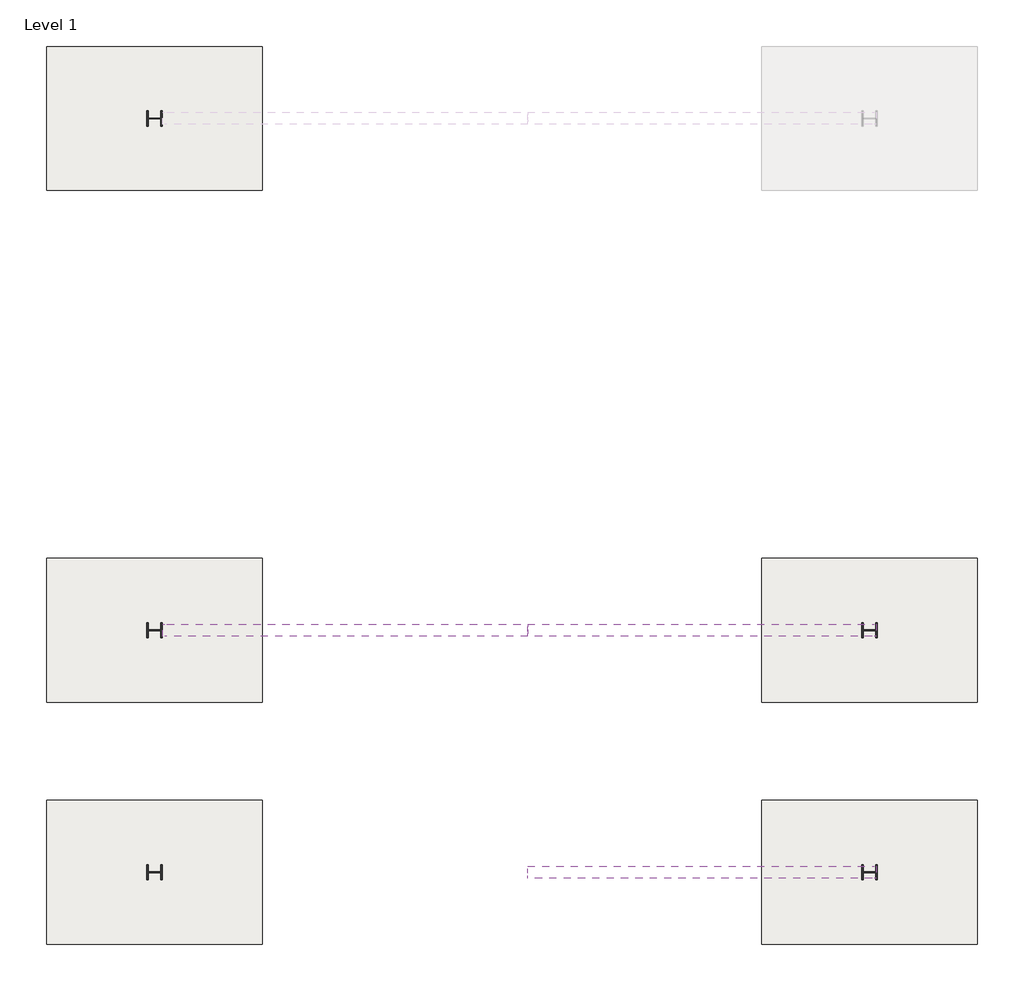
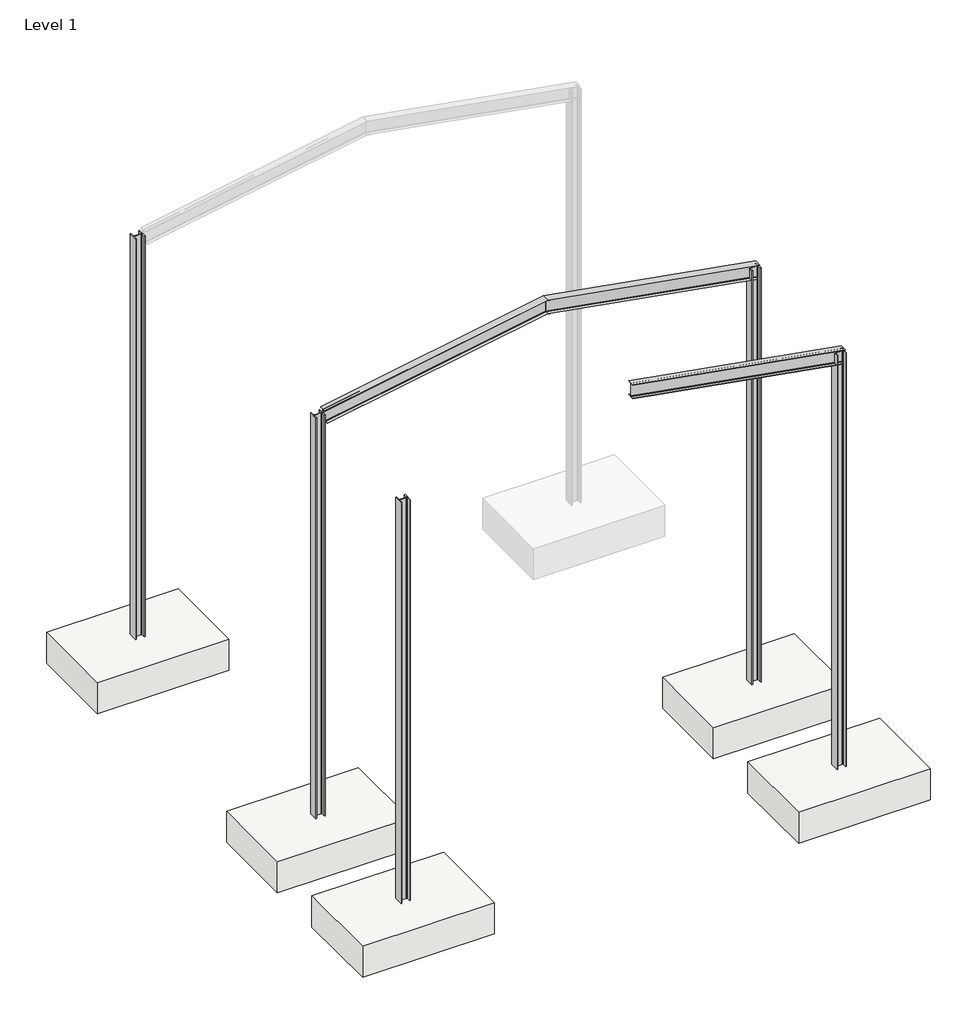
# One storey, part 1 of 3: 5 columns, 5 slabs, 3 beams.
"""IFC4 building model written with IfcOpenShell, lengths in millimetres."""

from ifc_helpers import new_model, si_unit, point, frame, frame_2d, origin, place, context, project, spatial, polyline, circle_curve, ellipse_curve, trimmed, segment, composite_curve, outline, extrude, transform, mapped, element, save
from ifc_brep_helpers import plane_surface, revolved_surface, advanced_brep
from components import slab_5ba74754

model = new_model("IFC4")

# Units and contexts
model_context = context("Model", 3, world=origin())
ifc_project = project(units=[si_unit("LENGTHUNIT", "METRE", prefix="MILLI")], contexts=[model_context])

# Site, building, storey
site = spatial("IfcSite", under=ifc_project)
building = spatial("IfcBuilding", under=site)
storey = spatial("IfcBuildingStorey", under=building, Name="Level 1", Elevation=0.0)

# Beams
placement = place(None, origin())
element("IfcBeam", 1, ObjectType="W Shapes : W8X10", at=placement, inside=storey, context=model_context, shape_type="AdvancedBrep", body=[
    advanced_brep(
    [(-3052.4401664, 3664.5204583, 6330.8839899), (-3052.4401664, 3764.5964583, 6330.8839899), (-6145.2600056, 3764.5964583, 5785.5364057), (-6145.2600056, 3664.5204583, 5785.5364057), (-6111.3640549, 3764.5964583, 5593.3029172), (-6110.4598689, 3764.5964583, 5588.1750232), (-6110.4598689, 3664.5204583, 5588.1750232), (-6111.3640549, 3664.5204583, 5593.3029172), (-6111.3640549, 3704.7794583, 5593.3029172), (-6112.687254, 3712.3994583, 5600.8071522), (-6143.0326204, 3712.3994583, 5772.9042767), (-6144.3558195, 3704.7794583, 5780.4085118), (-6144.3558195, 3664.5204583, 5780.4085118), (-6144.3558195, 3764.5964583, 5780.4085118), (-6144.3558195, 3724.3374583, 5780.4085118), (-6143.0326204, 3716.7174583, 5772.9042767), (-6112.687254, 3716.7174583, 5600.8071522), (-6111.3640549, 3724.3374583, 5593.3029172), (-3052.4401664, 3724.3374583, 6132.6737306), (-3052.4401664, 3764.5964583, 6132.6737306), (-3052.4401664, 3716.7174583, 6140.4112814), (-3052.4401664, 3716.7174583, 6317.8591127), (-3052.4401664, 3724.3374583, 6325.5966635), (-3052.4401664, 3764.5964583, 6325.5966635), (-3052.4401664, 3664.5204583, 6325.5966635), (-3052.4401664, 3704.7794583, 6325.5966635), (-3052.4401664, 3712.3994583, 6317.8591127), (-3052.4401664, 3712.3994583, 6140.4112814), (-3052.4401664, 3704.7794583, 6132.6737306), (-3052.4401664, 3664.5204583, 6132.6737306), (-3052.4401664, 3664.5204583, 6127.3864043), (-3052.4401664, 3764.5964583, 6127.3864043)],
    [
        (0, 1),
        (1, 2),
        (2, 3),
        (3, 0),
        (4, 5),
        (5, 6),
        (6, 7),
        (7, 8),
        (8, 9, circle_curve(frame((-6112.687254, 3704.7794583, 5600.8071522), z_axis=(0.9848077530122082, 0.0, 0.17364817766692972), x_axis=(0.0, -1.0000000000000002, 0.0)), 7.62)),
        (9, 10),
        (10, 11, circle_curve(frame((-6143.0326204, 3704.7794583, 5772.9042767), z_axis=(0.9848077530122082, 0.0, 0.17364817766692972), x_axis=(0.0, -1.0000000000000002, 0.0)), 7.62)),
        (11, 12),
        (12, 3),
        (2, 13),
        (13, 14),
        (14, 15, circle_curve(frame((-6143.0326204, 3724.3374583, 5772.9042767), z_axis=(0.9848077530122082, 0.0, 0.17364817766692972), x_axis=(0.0, -1.0000000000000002, 0.0)), 7.62)),
        (15, 16),
        (16, 17, circle_curve(frame((-6112.687254, 3724.3374583, 5600.8071522), z_axis=(0.9848077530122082, 0.0, 0.17364817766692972), x_axis=(0.0, -1.0000000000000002, 0.0)), 7.62)),
        (17, 4),
        (18, 19),
        (19, 4),
        (17, 18),
        (20, 18, ellipse_curve(frame((-3052.4401664, 3724.3374583, 6140.4112814), z_axis=(1.0, 0.0, 0.0), x_axis=(0.0, 0.0, -1.0)), 7.7375508, 7.62)),
        (16, 20),
        (21, 20),
        (15, 21),
        (22, 21, ellipse_curve(frame((-3052.4401664, 3724.3374583, 6317.8591127), z_axis=(1.0, 0.0, 0.0), x_axis=(0.0, 0.0, -1.0)), 7.7375508, 7.62)),
        (14, 22),
        (23, 22),
        (13, 23),
        (1, 23),
        (24, 0),
        (12, 24),
        (25, 24),
        (11, 25),
        (26, 25, ellipse_curve(frame((-3052.4401664, 3704.7794583, 6317.8591127), z_axis=(1.0, 0.0, 0.0), x_axis=(0.0, 0.0, -1.0)), 7.7375508, 7.62)),
        (10, 26),
        (27, 26),
        (9, 27),
        (28, 27, ellipse_curve(frame((-3052.4401664, 3704.7794583, 6140.4112814), z_axis=(1.0, 0.0, 0.0), x_axis=(0.0, 0.0, -1.0)), 7.7375508, 7.62)),
        (8, 28),
        (29, 28),
        (7, 29),
        (30, 29),
        (6, 30),
        (31, 30),
        (5, 31),
        (19, 31),
    ],
    [
        plane_surface(frame((-3052.4401664, 3764.5964583, 6330.8839899), z_axis=(-0.17364817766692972, 0.0, 0.9848077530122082), x_axis=(-0.9848077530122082, 0.0, -0.17364817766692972))),
        plane_surface(frame((-6127.8599372, 3714.5584583, 5686.8557145), z_axis=(-0.9848077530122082, 0.0, -0.17364817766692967), x_axis=(-0.17364817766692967, 0.0, 0.9848077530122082))),
        plane_surface(frame((-3018.5442158, 3764.5964583, 6138.6505013), z_axis=(-0.17364817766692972, 0.0, 0.9848077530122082), x_axis=(-0.9848077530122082, 0.0, -0.17364817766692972))),
        revolved_surface(polyline([(-6112.687254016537, 3716.7174583, 5600.807152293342), (-3051.1169672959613, 3716.7174583, 6140.644597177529)]), (-3019.8674149, 3724.3374583, 6146.1547364), (-0.9848077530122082, 0.0, -0.17364817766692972)),
        plane_surface(frame((-3019.8674149, 3716.7174583, 6146.1547364), z_axis=(0.0, 1.0000000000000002, 0.0), x_axis=(-0.9848077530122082, 0.0, -0.17364817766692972))),
        revolved_surface(polyline([(-6143.032620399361, 3716.7174583, 5772.904276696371), (-3051.116967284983, 3716.7174583, 6318.092428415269)]), (-3050.2127813, 3724.3374583, 6318.2518608), (-0.9848077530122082, 0.0, -0.17364817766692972)),
        plane_surface(frame((-3051.5359804, 3724.3374583, 6325.7560959), z_axis=(0.17364817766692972, 0.0, -0.9848077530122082), x_axis=(-0.9848077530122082, 0.0, -0.17364817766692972))),
        plane_surface(frame((-3051.5359804, 3764.5964583, 6325.7560959), z_axis=(0.0, 1.0000000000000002, 0.0), x_axis=(-0.9848077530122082, 0.0, -0.17364817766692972))),
        plane_surface(frame((-3052.4401664, 3664.5204583, 6330.8839899), z_axis=(0.0, -1.0000000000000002, 0.0), x_axis=(-0.9848077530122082, 0.0, -0.17364817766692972))),
        plane_surface(frame((-3051.5359804, 3664.5204583, 6325.7560959), z_axis=(0.17364817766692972, 0.0, -0.9848077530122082), x_axis=(-0.9848077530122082, 0.0, -0.17364817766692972))),
        revolved_surface(polyline([(-6143.032620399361, 3697.1594583, 5772.904276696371), (-3051.116967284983, 3697.1594583, 6318.092428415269)]), (-3050.2127813, 3704.7794583, 6318.2518608), (-0.9848077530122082, 0.0, -0.17364817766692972)),
        plane_surface(frame((-3050.2127813, 3712.3994583, 6318.2518608), z_axis=(0.0, -1.0000000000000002, 0.0), x_axis=(-0.9848077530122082, 0.0, -0.17364817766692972))),
        revolved_surface(polyline([(-6112.687254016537, 3697.1594583, 5600.807152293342), (-3051.1169672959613, 3697.1594583, 6140.644597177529)]), (-3019.8674149, 3704.7794583, 6146.1547364), (-0.9848077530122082, 0.0, -0.17364817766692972)),
        plane_surface(frame((-3018.5442158, 3704.7794583, 6138.6505013), z_axis=(-0.17364817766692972, 0.0, 0.9848077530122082), x_axis=(-0.9848077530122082, 0.0, -0.17364817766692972))),
        plane_surface(frame((-3018.5442158, 3664.5204583, 6138.6505013), z_axis=(0.0, -1.0000000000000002, 0.0), x_axis=(-0.9848077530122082, 0.0, -0.17364817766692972))),
        plane_surface(frame((-3017.6400297, 3664.5204583, 6133.5226073), z_axis=(0.17364817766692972, 0.0, -0.9848077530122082), x_axis=(-0.9848077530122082, 0.0, -0.17364817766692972))),
        plane_surface(frame((-3017.6400297, 3764.5964583, 6133.5226073), z_axis=(0.0, 1.0000000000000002, 0.0), x_axis=(-0.9848077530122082, 0.0, -0.17364817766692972))),
        plane_surface(frame((-3052.4401664, 3714.5584583, 6330.8839899), z_axis=(1.0, 0.0, 0.0), x_axis=(0.0, -1.0, 0.0))),
    ],
    [
        (0, [[1, 2, 3, 4]]),
        (1, [[5, 6, 7, 8, 9, 10, 11, 12, 13, -3, 14, 15, 16, 17, 18, 19]]),
        (2, [[20, 21, -19, 22]]),
        (3, [[23, -22, -18, 24]]),
        (4, [[25, -24, -17, 26]]),
        (5, [[27, -26, -16, 28]]),
        (6, [[29, -28, -15, 30]]),
        (7, [[31, -30, -14, -2]]),
        (8, [[32, -4, -13, 33]]),
        (9, [[34, -33, -12, 35]]),
        (10, [[36, -35, -11, 37]]),
        (11, [[38, -37, -10, 39]]),
        (12, [[40, -39, -9, 41]]),
        (13, [[42, -41, -8, 43]]),
        (14, [[44, -43, -7, 45]]),
        (15, [[46, -45, -6, 47]]),
        (16, [[48, -47, -5, -21]]),
        (17, [[-20, -23, -25, -27, -29, -31, -1, -32, -34, -36, -38, -40, -42, -44, -46, -48]]),
    ],
),
])
element("IfcBeam", 2, ObjectType="W Shapes : W8X10", at=placement, inside=storey, context=model_context, shape_type="AdvancedBrep", body=[
    advanced_brep(
    [(-100.7743691, 3664.5204583, 5810.4256718), (-100.7743691, 3764.5964583, 5810.4256718), (-3052.4401664, 3764.5964583, 6330.8839899), (-3052.4401664, 3664.5204583, 6330.8839899), (-134.6703197, 3764.5964583, 5618.1921832), (-134.6703197, 3724.3374583, 5618.1921832), (-133.3471206, 3716.7174583, 5625.6964182), (-103.0017543, 3716.7174583, 5797.7935427), (-101.6785552, 3724.3374583, 5805.2977778), (-101.6785552, 3764.5964583, 5805.2977778), (-101.6785552, 3664.5204583, 5805.2977778), (-101.6785552, 3704.7794583, 5805.2977778), (-103.0017543, 3712.3994583, 5797.7935427), (-133.3471206, 3712.3994583, 5625.6964182), (-134.6703197, 3704.7794583, 5618.1921832), (-134.6703197, 3664.5204583, 5618.1921832), (-135.5745058, 3664.5204583, 5613.0642892), (-135.5745058, 3764.5964583, 5613.0642892), (-3052.4401664, 3764.5964583, 6132.6737306), (-3052.4401664, 3724.3374583, 6132.6737306), (-3052.4401664, 3716.7174583, 6140.4112814), (-3052.4401664, 3716.7174583, 6317.8591127), (-3052.4401664, 3724.3374583, 6325.5966635), (-3052.4401664, 3764.5964583, 6325.5966635), (-3052.4401664, 3664.5204583, 6325.5966635), (-3052.4401664, 3704.7794583, 6325.5966635), (-3052.4401664, 3712.3994583, 6317.8591127), (-3052.4401664, 3712.3994583, 6140.4112814), (-3052.4401664, 3704.7794583, 6132.6737306), (-3052.4401664, 3664.5204583, 6132.6737306), (-3052.4401664, 3664.5204583, 6127.3864043), (-3052.4401664, 3764.5964583, 6127.3864043)],
    [
        (0, 1),
        (1, 2),
        (2, 3),
        (3, 0),
        (4, 5),
        (5, 6, circle_curve(frame((-133.3471206, 3724.3374583, 5625.6964182), z_axis=(-0.9848077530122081, 0.0, 0.17364817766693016), x_axis=(0.0, -1.0, 0.0)), 7.62)),
        (6, 7),
        (7, 8, circle_curve(frame((-103.0017543, 3724.3374583, 5797.7935427), z_axis=(-0.9848077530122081, 0.0, 0.17364817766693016), x_axis=(0.0, -1.0, 0.0)), 7.62)),
        (8, 9),
        (9, 1),
        (0, 10),
        (10, 11),
        (11, 12, circle_curve(frame((-103.0017543, 3704.7794583, 5797.7935427), z_axis=(-0.9848077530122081, 0.0, 0.17364817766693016), x_axis=(0.0, -1.0, 0.0)), 7.62)),
        (12, 13),
        (13, 14, circle_curve(frame((-133.3471206, 3704.7794583, 5625.6964182), z_axis=(-0.9848077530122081, 0.0, 0.17364817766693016), x_axis=(0.0, -1.0, 0.0)), 7.62)),
        (14, 15),
        (15, 16),
        (16, 17),
        (17, 4),
        (4, 18),
        (18, 19),
        (19, 5),
        (19, 20, ellipse_curve(frame((-3052.4401664, 3724.3374583, 6140.4112814), z_axis=(-1.0, 0.0, 0.0), x_axis=(0.0, 0.0, 1.0)), 7.7375508, 7.62)),
        (20, 6),
        (20, 21),
        (21, 7),
        (21, 22, ellipse_curve(frame((-3052.4401664, 3724.3374583, 6317.8591127), z_axis=(-1.0, 0.0, 0.0), x_axis=(0.0, 0.0, 1.0)), 7.7375508, 7.62)),
        (22, 8),
        (22, 23),
        (23, 9),
        (23, 2),
        (3, 24),
        (24, 10),
        (24, 25),
        (25, 11),
        (25, 26, ellipse_curve(frame((-3052.4401664, 3704.7794583, 6317.8591127), z_axis=(-1.0, 0.0, 0.0), x_axis=(0.0, 0.0, 1.0)), 7.7375508, 7.62)),
        (26, 12),
        (26, 27),
        (27, 13),
        (27, 28, ellipse_curve(frame((-3052.4401664, 3704.7794583, 6140.4112814), z_axis=(-1.0, 0.0, 0.0), x_axis=(0.0, 0.0, 1.0)), 7.7375508, 7.62)),
        (28, 14),
        (28, 29),
        (29, 15),
        (29, 30),
        (30, 16),
        (30, 31),
        (31, 17),
        (31, 18),
    ],
    [
        plane_surface(frame((-100.7743691, 3764.5964583, 5810.4256718), z_axis=(0.17364817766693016, 0.0, 0.9848077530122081), x_axis=(-0.9848077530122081, 0.0, 0.17364817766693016))),
        plane_surface(frame((-118.1744374, 3714.5584583, 5711.7449805), z_axis=(0.9848077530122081, 0.0, -0.1736481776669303), x_axis=(0.1736481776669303, 0.0, 0.9848077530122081))),
        plane_surface(frame((-134.6703197, 3764.5964583, 5618.1921832), z_axis=(0.17364817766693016, 0.0, 0.9848077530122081), x_axis=(-0.9848077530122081, 0.0, 0.17364817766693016))),
        revolved_surface(polyline([(-3053.763365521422, 3716.7174583, 6140.644597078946), (-133.34712059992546, 3716.7174583, 5625.696418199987)]), (-133.3471206, 3724.3374583, 5625.6964182), (-0.9848077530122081, 0.0, 0.17364817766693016)),
        plane_surface(frame((-133.3471206, 3716.7174583, 5625.6964182), z_axis=(0.0, 1.0, 0.0), x_axis=(-0.9848077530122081, 0.0, 0.17364817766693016))),
        revolved_surface(polyline([(-3053.763365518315, 3716.7174583, 6318.0924283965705), (-103.0017543, 3716.7174583, 5797.7935427)]), (-103.0017543, 3724.3374583, 5797.7935427), (-0.9848077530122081, 0.0, 0.17364817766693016)),
        plane_surface(frame((-101.6785552, 3724.3374583, 5805.2977778), z_axis=(-0.17364817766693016, 0.0, -0.9848077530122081), x_axis=(-0.9848077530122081, 0.0, 0.17364817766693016))),
        plane_surface(frame((-101.6785552, 3764.5964583, 5805.2977778), z_axis=(0.0, 1.0, 0.0), x_axis=(-0.9848077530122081, 0.0, 0.17364817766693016))),
        plane_surface(frame((-100.7743691, 3664.5204583, 5810.4256718), z_axis=(0.0, -1.0, 0.0), x_axis=(-0.9848077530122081, 0.0, 0.17364817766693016))),
        plane_surface(frame((-101.6785552, 3664.5204583, 5805.2977778), z_axis=(-0.17364817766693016, 0.0, -0.9848077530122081), x_axis=(-0.9848077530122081, 0.0, 0.17364817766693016))),
        revolved_surface(polyline([(-3053.763365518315, 3697.1594583, 6318.0924283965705), (-103.0017543, 3697.1594583, 5797.7935427)]), (-103.0017543, 3704.7794583, 5797.7935427), (-0.9848077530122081, 0.0, 0.17364817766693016)),
        plane_surface(frame((-103.0017543, 3712.3994583, 5797.7935427), z_axis=(0.0, -1.0, 0.0), x_axis=(-0.9848077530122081, 0.0, 0.17364817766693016))),
        revolved_surface(polyline([(-3053.763365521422, 3697.1594583, 6140.644597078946), (-133.34712059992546, 3697.1594583, 5625.696418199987)]), (-133.3471206, 3704.7794583, 5625.6964182), (-0.9848077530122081, 0.0, 0.17364817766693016)),
        plane_surface(frame((-134.6703197, 3704.7794583, 5618.1921832), z_axis=(0.17364817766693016, 0.0, 0.9848077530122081), x_axis=(-0.9848077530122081, 0.0, 0.17364817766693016))),
        plane_surface(frame((-134.6703197, 3664.5204583, 5618.1921832), z_axis=(0.0, -1.0, 0.0), x_axis=(-0.9848077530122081, 0.0, 0.17364817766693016))),
        plane_surface(frame((-135.5745058, 3664.5204583, 5613.0642892), z_axis=(-0.17364817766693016, 0.0, -0.9848077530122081), x_axis=(-0.9848077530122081, 0.0, 0.17364817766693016))),
        plane_surface(frame((-135.5745058, 3764.5964583, 5613.0642892), z_axis=(0.0, 1.0, 0.0), x_axis=(-0.9848077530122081, 0.0, 0.17364817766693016))),
        plane_surface(frame((-3052.4401664, 3714.5584583, 6330.8839899), z_axis=(-1.0, 0.0, 0.0), x_axis=(0.0, 1.0, 0.0))),
    ],
    [
        (0, [[1, 2, 3, 4]]),
        (1, [[5, 6, 7, 8, 9, 10, -1, 11, 12, 13, 14, 15, 16, 17, 18, 19]]),
        (2, [[-5, 20, 21, 22]]),
        (3, [[-6, -22, 23, 24]]),
        (4, [[-7, -24, 25, 26]]),
        (5, [[-8, -26, 27, 28]]),
        (6, [[-9, -28, 29, 30]]),
        (7, [[-10, -30, 31, -2]]),
        (8, [[-11, -4, 32, 33]]),
        (9, [[-12, -33, 34, 35]]),
        (10, [[-13, -35, 36, 37]]),
        (11, [[-14, -37, 38, 39]]),
        (12, [[-15, -39, 40, 41]]),
        (13, [[-16, -41, 42, 43]]),
        (14, [[-17, -43, 44, 45]]),
        (15, [[-18, -45, 46, 47]]),
        (16, [[-19, -47, 48, -20]]),
        (17, [[-48, -46, -44, -42, -40, -38, -36, -34, -32, -3, -31, -29, -27, -25, -23, -21]]),
    ],
),
])
element("IfcBeam", 3, ObjectType="W Shapes : W8X10", at=placement, inside=storey, context=model_context, shape_type="AdvancedBrep", body=[
    advanced_brep(
    [(-100.7743691, 1613.4704583, 5810.4256718), (-100.7743691, 1713.5464583, 5810.4256718), (-3052.4401664, 1713.5464583, 6330.8839899), (-3052.4401664, 1613.4704583, 6330.8839899), (-134.6703197, 1713.5464583, 5618.1921832), (-134.6703197, 1673.2874583, 5618.1921832), (-133.3471206, 1665.6674583, 5625.6964182), (-103.0017543, 1665.6674583, 5797.7935427), (-101.6785552, 1673.2874583, 5805.2977778), (-101.6785552, 1713.5464583, 5805.2977778), (-101.6785552, 1613.4704583, 5805.2977778), (-101.6785552, 1653.7294583, 5805.2977778), (-103.0017543, 1661.3494583, 5797.7935427), (-133.3471206, 1661.3494583, 5625.6964182), (-134.6703197, 1653.7294583, 5618.1921832), (-134.6703197, 1613.4704583, 5618.1921832), (-135.5745058, 1613.4704583, 5613.0642892), (-135.5745058, 1713.5464583, 5613.0642892), (-3052.4401664, 1713.5464583, 6132.6737306), (-3052.4401664, 1673.2874583, 6132.6737306), (-3052.4401664, 1665.6674583, 6140.4112814), (-3052.4401664, 1665.6674583, 6317.8591127), (-3052.4401664, 1673.2874583, 6325.5966635), (-3052.4401664, 1713.5464583, 6325.5966635), (-3052.4401664, 1613.4704583, 6325.5966635), (-3052.4401664, 1653.7294583, 6325.5966635), (-3052.4401664, 1661.3494583, 6317.8591127), (-3052.4401664, 1661.3494583, 6140.4112814), (-3052.4401664, 1653.7294583, 6132.6737306), (-3052.4401664, 1613.4704583, 6132.6737306), (-3052.4401664, 1613.4704583, 6127.3864043), (-3052.4401664, 1713.5464583, 6127.3864043)],
    [
        (0, 1),
        (1, 2),
        (2, 3),
        (3, 0),
        (4, 5),
        (5, 6, circle_curve(frame((-133.3471206, 1673.2874583, 5625.6964182), z_axis=(-0.9848077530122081, 0.0, 0.17364817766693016), x_axis=(0.0, -1.0, 0.0)), 7.62)),
        (6, 7),
        (7, 8, circle_curve(frame((-103.0017543, 1673.2874583, 5797.7935427), z_axis=(-0.9848077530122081, 0.0, 0.17364817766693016), x_axis=(0.0, -1.0, 0.0)), 7.62)),
        (8, 9),
        (9, 1),
        (0, 10),
        (10, 11),
        (11, 12, circle_curve(frame((-103.0017543, 1653.7294583, 5797.7935427), z_axis=(-0.9848077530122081, 0.0, 0.17364817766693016), x_axis=(0.0, -1.0, 0.0)), 7.62)),
        (12, 13),
        (13, 14, circle_curve(frame((-133.3471206, 1653.7294583, 5625.6964182), z_axis=(-0.9848077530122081, 0.0, 0.17364817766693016), x_axis=(0.0, -1.0, 0.0)), 7.62)),
        (14, 15),
        (15, 16),
        (16, 17),
        (17, 4),
        (4, 18),
        (18, 19),
        (19, 5),
        (19, 20, ellipse_curve(frame((-3052.4401664, 1673.2874583, 6140.4112814), z_axis=(-1.0, 0.0, 0.0), x_axis=(0.0, 0.0, 1.0)), 7.7375508, 7.62)),
        (20, 6),
        (20, 21),
        (21, 7),
        (21, 22, ellipse_curve(frame((-3052.4401664, 1673.2874583, 6317.8591127), z_axis=(-1.0, 0.0, 0.0), x_axis=(0.0, 0.0, 1.0)), 7.7375508, 7.62)),
        (22, 8),
        (22, 23),
        (23, 9),
        (23, 2),
        (3, 24),
        (24, 10),
        (24, 25),
        (25, 11),
        (25, 26, ellipse_curve(frame((-3052.4401664, 1653.7294583, 6317.8591127), z_axis=(-1.0, 0.0, 0.0), x_axis=(0.0, 0.0, 1.0)), 7.7375508, 7.62)),
        (26, 12),
        (26, 27),
        (27, 13),
        (27, 28, ellipse_curve(frame((-3052.4401664, 1653.7294583, 6140.4112814), z_axis=(-1.0, 0.0, 0.0), x_axis=(0.0, 0.0, 1.0)), 7.7375508, 7.62)),
        (28, 14),
        (28, 29),
        (29, 15),
        (29, 30),
        (30, 16),
        (30, 31),
        (31, 17),
        (31, 18),
    ],
    [
        plane_surface(frame((-100.7743691, 1713.5464583, 5810.4256718), z_axis=(0.17364817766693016, 0.0, 0.9848077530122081), x_axis=(-0.9848077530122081, 0.0, 0.17364817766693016))),
        plane_surface(frame((-118.1744374, 1663.5084583, 5711.7449805), z_axis=(0.9848077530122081, 0.0, -0.1736481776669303), x_axis=(0.1736481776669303, 0.0, 0.9848077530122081))),
        plane_surface(frame((-134.6703197, 1713.5464583, 5618.1921832), z_axis=(0.17364817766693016, 0.0, 0.9848077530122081), x_axis=(-0.9848077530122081, 0.0, 0.17364817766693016))),
        revolved_surface(polyline([(-3053.763365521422, 1665.6674583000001, 6140.644597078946), (-133.34712059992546, 1665.6674583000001, 5625.696418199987)]), (-133.3471206, 1673.2874583, 5625.6964182), (-0.9848077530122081, 0.0, 0.17364817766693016)),
        plane_surface(frame((-133.3471206, 1665.6674583, 5625.6964182), z_axis=(0.0, 1.0, 0.0), x_axis=(-0.9848077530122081, 0.0, 0.17364817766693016))),
        revolved_surface(polyline([(-3053.763365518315, 1665.6674583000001, 6318.0924283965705), (-103.0017543, 1665.6674583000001, 5797.7935427)]), (-103.0017543, 1673.2874583, 5797.7935427), (-0.9848077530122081, 0.0, 0.17364817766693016)),
        plane_surface(frame((-101.6785552, 1673.2874583, 5805.2977778), z_axis=(-0.17364817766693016, 0.0, -0.9848077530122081), x_axis=(-0.9848077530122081, 0.0, 0.17364817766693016))),
        plane_surface(frame((-101.6785552, 1713.5464583, 5805.2977778), z_axis=(0.0, 1.0, 0.0), x_axis=(-0.9848077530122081, 0.0, 0.17364817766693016))),
        plane_surface(frame((-100.7743691, 1613.4704583, 5810.4256718), z_axis=(0.0, -1.0, 0.0), x_axis=(-0.9848077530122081, 0.0, 0.17364817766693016))),
        plane_surface(frame((-101.6785552, 1613.4704583, 5805.2977778), z_axis=(-0.17364817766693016, 0.0, -0.9848077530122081), x_axis=(-0.9848077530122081, 0.0, 0.17364817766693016))),
        revolved_surface(polyline([(-3053.763365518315, 1646.1094583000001, 6318.0924283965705), (-103.0017543, 1646.1094583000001, 5797.7935427)]), (-103.0017543, 1653.7294583, 5797.7935427), (-0.9848077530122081, 0.0, 0.17364817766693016)),
        plane_surface(frame((-103.0017543, 1661.3494583, 5797.7935427), z_axis=(0.0, -1.0, 0.0), x_axis=(-0.9848077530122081, 0.0, 0.17364817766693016))),
        revolved_surface(polyline([(-3053.763365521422, 1646.1094583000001, 6140.644597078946), (-133.34712059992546, 1646.1094583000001, 5625.696418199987)]), (-133.3471206, 1653.7294583, 5625.6964182), (-0.9848077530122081, 0.0, 0.17364817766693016)),
        plane_surface(frame((-134.6703197, 1653.7294583, 5618.1921832), z_axis=(0.17364817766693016, 0.0, 0.9848077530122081), x_axis=(-0.9848077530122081, 0.0, 0.17364817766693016))),
        plane_surface(frame((-134.6703197, 1613.4704583, 5618.1921832), z_axis=(0.0, -1.0, 0.0), x_axis=(-0.9848077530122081, 0.0, 0.17364817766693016))),
        plane_surface(frame((-135.5745058, 1613.4704583, 5613.0642892), z_axis=(-0.17364817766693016, 0.0, -0.9848077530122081), x_axis=(-0.9848077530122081, 0.0, 0.17364817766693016))),
        plane_surface(frame((-135.5745058, 1713.5464583, 5613.0642892), z_axis=(0.0, 1.0, 0.0), x_axis=(-0.9848077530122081, 0.0, 0.17364817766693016))),
        plane_surface(frame((-3052.4401664, 1663.5084583, 6330.8839899), z_axis=(-1.0, 0.0, 0.0), x_axis=(0.0, 1.0, 0.0))),
    ],
    [
        (0, [[1, 2, 3, 4]]),
        (1, [[5, 6, 7, 8, 9, 10, -1, 11, 12, 13, 14, 15, 16, 17, 18, 19]]),
        (2, [[-5, 20, 21, 22]]),
        (3, [[-6, -22, 23, 24]]),
        (4, [[-7, -24, 25, 26]]),
        (5, [[-8, -26, 27, 28]]),
        (6, [[-9, -28, 29, 30]]),
        (7, [[-10, -30, 31, -2]]),
        (8, [[-11, -4, 32, 33]]),
        (9, [[-12, -33, 34, 35]]),
        (10, [[-13, -35, 36, 37]]),
        (11, [[-14, -37, 38, 39]]),
        (12, [[-15, -39, 40, 41]]),
        (13, [[-16, -41, 42, 43]]),
        (14, [[-17, -43, 44, 45]]),
        (15, [[-18, -45, 46, 47]]),
        (16, [[-19, -47, 48, -20]]),
        (17, [[-48, -46, -44, -42, -40, -38, -36, -34, -32, -3, -31, -29, -27, -25, -23, -21]]),
    ],
),
])

# Columns
element("IfcColumn", 4, ObjectType="W-Wide Flange-Column : W5X19", at=placement, inside=storey, context=model_context, shape_type="SweptSolid", body=[
    extrude(outline(composite_curve([segment(polyline([(-222.2451664, 1727.3894583), (-211.3231664, 1727.3894583), (-211.3231664, 1676.6529583)]), True, "CONTINUOUS"), segment(trimmed(circle_curve(frame_2d((-201.6076664, 1676.6529583)), 9.7155), [point((-211.3231664, 1676.6529583))], [point((-201.6076664, 1666.9374583))], True, "CARTESIAN"), True, "CONTINUOUS"), segment(polyline([(-201.6076664, 1666.9374583), (-112.0726664, 1666.9374583)]), True, "CONTINUOUS"), segment(trimmed(circle_curve(frame_2d((-112.0726664, 1676.6529583)), 9.7155), [point((-112.0726664, 1666.9374583))], [point((-102.3571664, 1676.6529583))], True, "CARTESIAN"), True, "CONTINUOUS"), segment(polyline([(-102.3571664, 1676.6529583), (-102.3571664, 1727.3894583), (-91.4351664, 1727.3894583), (-91.4351664, 1599.6274583), (-102.3571664, 1599.6274583), (-102.3571664, 1650.3639583)]), True, "CONTINUOUS"), segment(trimmed(circle_curve(frame_2d((-112.0726664, 1650.3639583)), 9.7155), [point((-102.3571664, 1650.3639583))], [point((-112.0726664, 1660.0794583))], True, "CARTESIAN"), True, "CONTINUOUS"), segment(polyline([(-112.0726664, 1660.0794583), (-201.6076664, 1660.0794583)]), True, "CONTINUOUS"), segment(trimmed(circle_curve(frame_2d((-201.6076664, 1650.3639583)), 9.7155), [point((-201.6076664, 1660.0794583))], [point((-211.3231664, 1650.3639583))], True, "CARTESIAN"), True, "CONTINUOUS"), segment(polyline([(-211.3231664, 1650.3639583), (-211.3231664, 1599.6274583), (-222.2451664, 1599.6274583), (-222.2451664, 1727.3894583)]), True, "CONTINUOUS")], self_intersect=False)), frame((0.0, 0.0, -304.8), z_axis=(0.0, 0.0, 1.0), x_axis=(1.0, 0.0, 0.0)), (0.0, 0.0, 1.0), 6079.1336143),
])
element("IfcColumn", 5, ObjectType="W-Wide Flange-Column : W5X19", at=placement, inside=storey, context=model_context, shape_type="SweptSolid", body=[
    extrude(outline(composite_curve([segment(polyline([(-6280.1451664, 1727.3894583), (-6269.2231664, 1727.3894583), (-6269.2231664, 1676.6529583)]), True, "CONTINUOUS"), segment(trimmed(circle_curve(frame_2d((-6259.5076664, 1676.6529583)), 9.7155), [point((-6269.2231664, 1676.6529583))], [point((-6259.5076664, 1666.9374583))], True, "CARTESIAN"), True, "CONTINUOUS"), segment(polyline([(-6259.5076664, 1666.9374583), (-6169.9726664, 1666.9374583)]), True, "CONTINUOUS"), segment(trimmed(circle_curve(frame_2d((-6169.9726664, 1676.6529583)), 9.7155), [point((-6169.9726664, 1666.9374583))], [point((-6160.2571664, 1676.6529583))], True, "CARTESIAN"), True, "CONTINUOUS"), segment(polyline([(-6160.2571664, 1676.6529583), (-6160.2571664, 1727.3894583), (-6149.3351664, 1727.3894583), (-6149.3351664, 1599.6274583), (-6160.2571664, 1599.6274583), (-6160.2571664, 1650.3639583)]), True, "CONTINUOUS"), segment(trimmed(circle_curve(frame_2d((-6169.9726664, 1650.3639583)), 9.7155), [point((-6160.2571664, 1650.3639583))], [point((-6169.9726664, 1660.0794583))], True, "CARTESIAN"), True, "CONTINUOUS"), segment(polyline([(-6169.9726664, 1660.0794583), (-6259.5076664, 1660.0794583)]), True, "CONTINUOUS"), segment(trimmed(circle_curve(frame_2d((-6259.5076664, 1650.3639583)), 9.7155), [point((-6259.5076664, 1660.0794583))], [point((-6269.2231664, 1650.3639583))], True, "CARTESIAN"), True, "CONTINUOUS"), segment(polyline([(-6269.2231664, 1650.3639583), (-6269.2231664, 1599.6274583), (-6280.1451664, 1599.6274583), (-6280.1451664, 1727.3894583)]), True, "CONTINUOUS")], self_intersect=False)), frame((0.0, 0.0, -152.4), z_axis=(0.0, 0.0, 1.0), x_axis=(1.0, 0.0, 0.0)), (0.0, 0.0, 1.0), 5887.9114063),
])
element("IfcColumn", 6, ObjectType="W-Wide Flange-Column : W5X19", at=placement, inside=storey, context=model_context, shape_type="SweptSolid", body=[
    extrude(outline(composite_curve([segment(polyline([(-222.2451664, 3778.4394583), (-211.3231664, 3778.4394583), (-211.3231664, 3727.7029583)]), True, "CONTINUOUS"), segment(trimmed(circle_curve(frame_2d((-201.6076664, 3727.7029583)), 9.7155), [point((-211.3231664, 3727.7029583))], [point((-201.6076664, 3717.9874583))], True, "CARTESIAN"), True, "CONTINUOUS"), segment(polyline([(-201.6076664, 3717.9874583), (-112.0726664, 3717.9874583)]), True, "CONTINUOUS"), segment(trimmed(circle_curve(frame_2d((-112.0726664, 3727.7029583)), 9.7155), [point((-112.0726664, 3717.9874583))], [point((-102.3571664, 3727.7029583))], True, "CARTESIAN"), True, "CONTINUOUS"), segment(polyline([(-102.3571664, 3727.7029583), (-102.3571664, 3778.4394583), (-91.4351664, 3778.4394583), (-91.4351664, 3650.6774583), (-102.3571664, 3650.6774583), (-102.3571664, 3701.4139583)]), True, "CONTINUOUS"), segment(trimmed(circle_curve(frame_2d((-112.0726664, 3701.4139583)), 9.7155), [point((-102.3571664, 3701.4139583))], [point((-112.0726664, 3711.1294583))], True, "CARTESIAN"), True, "CONTINUOUS"), segment(polyline([(-112.0726664, 3711.1294583), (-201.6076664, 3711.1294583)]), True, "CONTINUOUS"), segment(trimmed(circle_curve(frame_2d((-201.6076664, 3701.4139583)), 9.7155), [point((-201.6076664, 3711.1294583))], [point((-211.3231664, 3701.4139583))], True, "CARTESIAN"), True, "CONTINUOUS"), segment(polyline([(-211.3231664, 3701.4139583), (-211.3231664, 3650.6774583), (-222.2451664, 3650.6774583), (-222.2451664, 3778.4394583)]), True, "CONTINUOUS")], self_intersect=False)), frame((0.0, 0.0, -304.8), z_axis=(0.0, 0.0, 1.0), x_axis=(1.0, 0.0, 0.0)), (0.0, 0.0, 1.0), 6079.1336143),
])
element("IfcColumn", 7, ObjectType="W-Wide Flange-Column : W5X19", at=placement, inside=storey, context=model_context, shape_type="SweptSolid", body=[
    extrude(outline(composite_curve([segment(polyline([(-6280.1451664, 3778.4394583), (-6269.2231664, 3778.4394583), (-6269.2231664, 3727.7029583)]), True, "CONTINUOUS"), segment(trimmed(circle_curve(frame_2d((-6259.5076664, 3727.7029583)), 9.7155), [point((-6269.2231664, 3727.7029583))], [point((-6259.5076664, 3717.9874583))], True, "CARTESIAN"), True, "CONTINUOUS"), segment(polyline([(-6259.5076664, 3717.9874583), (-6169.9726664, 3717.9874583)]), True, "CONTINUOUS"), segment(trimmed(circle_curve(frame_2d((-6169.9726664, 3727.7029583)), 9.7155), [point((-6169.9726664, 3717.9874583))], [point((-6160.2571664, 3727.7029583))], True, "CARTESIAN"), True, "CONTINUOUS"), segment(polyline([(-6160.2571664, 3727.7029583), (-6160.2571664, 3778.4394583), (-6149.3351664, 3778.4394583), (-6149.3351664, 3650.6774583), (-6160.2571664, 3650.6774583), (-6160.2571664, 3701.4139583)]), True, "CONTINUOUS"), segment(trimmed(circle_curve(frame_2d((-6169.9726664, 3701.4139583)), 9.7155), [point((-6160.2571664, 3701.4139583))], [point((-6169.9726664, 3711.1294583))], True, "CARTESIAN"), True, "CONTINUOUS"), segment(polyline([(-6169.9726664, 3711.1294583), (-6259.5076664, 3711.1294583)]), True, "CONTINUOUS"), segment(trimmed(circle_curve(frame_2d((-6259.5076664, 3701.4139583)), 9.7155), [point((-6259.5076664, 3711.1294583))], [point((-6269.2231664, 3701.4139583))], True, "CARTESIAN"), True, "CONTINUOUS"), segment(polyline([(-6269.2231664, 3701.4139583), (-6269.2231664, 3650.6774583), (-6280.1451664, 3650.6774583), (-6280.1451664, 3778.4394583)]), True, "CONTINUOUS")], self_intersect=False)), frame((0.0, 0.0, -152.4), z_axis=(0.0, 0.0, 1.0), x_axis=(1.0, 0.0, 0.0)), (0.0, 0.0, 1.0), 5887.9114063),
])
element("IfcColumn", 8, ObjectType="W-Wide Flange-Column : W5X19", at=placement, inside=storey, context=model_context, shape_type="SweptSolid", body=[
    extrude(outline(composite_curve([segment(polyline([(-6280.1451664, 8114.5823153), (-6269.2231664, 8114.5823153), (-6269.2231664, 8063.8458153)]), True, "CONTINUOUS"), segment(trimmed(circle_curve(frame_2d((-6259.5076664, 8063.8458153)), 9.7155), [point((-6269.2231664, 8063.8458153))], [point((-6259.5076664, 8054.1303153))], True, "CARTESIAN"), True, "CONTINUOUS"), segment(polyline([(-6259.5076664, 8054.1303153), (-6169.9726664, 8054.1303153)]), True, "CONTINUOUS"), segment(trimmed(circle_curve(frame_2d((-6169.9726664, 8063.8458153)), 9.7155), [point((-6169.9726664, 8054.1303153))], [point((-6160.2571664, 8063.8458153))], True, "CARTESIAN"), True, "CONTINUOUS"), segment(polyline([(-6160.2571664, 8063.8458153), (-6160.2571664, 8114.5823153), (-6149.3351664, 8114.5823153), (-6149.3351664, 7986.8203153), (-6160.2571664, 7986.8203153), (-6160.2571664, 8037.5568153)]), True, "CONTINUOUS"), segment(trimmed(circle_curve(frame_2d((-6169.9726664, 8037.5568153)), 9.7155), [point((-6160.2571664, 8037.5568153))], [point((-6169.9726664, 8047.2723153))], True, "CARTESIAN"), True, "CONTINUOUS"), segment(polyline([(-6169.9726664, 8047.2723153), (-6259.5076664, 8047.2723153)]), True, "CONTINUOUS"), segment(trimmed(circle_curve(frame_2d((-6259.5076664, 8037.5568153)), 9.7155), [point((-6259.5076664, 8047.2723153))], [point((-6269.2231664, 8037.5568153))], True, "CARTESIAN"), True, "CONTINUOUS"), segment(polyline([(-6269.2231664, 8037.5568153), (-6269.2231664, 7986.8203153), (-6280.1451664, 7986.8203153), (-6280.1451664, 8114.5823153)]), True, "CONTINUOUS")], self_intersect=False)), frame((0.0, 0.0, -152.4), z_axis=(0.0, 0.0, 1.0), x_axis=(1.0, 0.0, 0.0)), (0.0, 0.0, 1.0), 5887.9114063),
])

# Slabs
slab_shape = slab_5ba74754(model_context)
element("IfcSlab", 9, ObjectType="Footing-Rectangular : 72\" x 48\" x 18\"", at=placement, inside=storey, context=model_context, shape_type="MappedRepresentation", body=[
    mapped(slab_shape, transform((-156.8401664, 1663.5084583, -304.8), x_axis=(0.0, 1.0, 0.0), y_axis=(-1.0, 0.0, 0.0), z_axis=(0.0, 0.0, 1.0))),
])
element("IfcSlab", 10, ObjectType="Footing-Rectangular : 72\" x 48\" x 18\"", at=placement, inside=storey, context=model_context, shape_type="MappedRepresentation", body=[
    mapped(slab_shape, transform((-156.8401664, 3714.5584583, -304.8), x_axis=(0.0, 1.0, 0.0), y_axis=(-1.0, 0.0, 0.0), z_axis=(0.0, 0.0, 1.0))),
])
element("IfcSlab", 11, ObjectType="Footing-Rectangular : 72\" x 48\" x 18\"", at=placement, inside=storey, context=model_context, shape_type="MappedRepresentation", body=[
    mapped(slab_shape, transform((-6214.7401664, 1663.5084583, -152.4), x_axis=(0.0, 1.0, 0.0), y_axis=(-1.0, 0.0, 0.0), z_axis=(0.0, 0.0, 1.0))),
])
element("IfcSlab", 12, ObjectType="Footing-Rectangular : 72\" x 48\" x 18\"", at=placement, inside=storey, context=model_context, shape_type="MappedRepresentation", body=[
    mapped(slab_shape, transform((-6214.7401664, 3714.5584583, -152.4), x_axis=(0.0, 1.0, 0.0), y_axis=(-1.0, 0.0, 0.0), z_axis=(0.0, 0.0, 1.0))),
])
element("IfcSlab", 13, ObjectType="Footing-Rectangular : 72\" x 48\" x 18\"", at=placement, inside=storey, context=model_context, shape_type="MappedRepresentation", body=[
    mapped(slab_shape, transform((-6214.7401664, 8050.7013153, -152.4), x_axis=(0.0, 1.0, 0.0), y_axis=(-1.0, 0.0, 0.0), z_axis=(0.0, 0.0, 1.0))),
])

save(model, "model.ifc")
